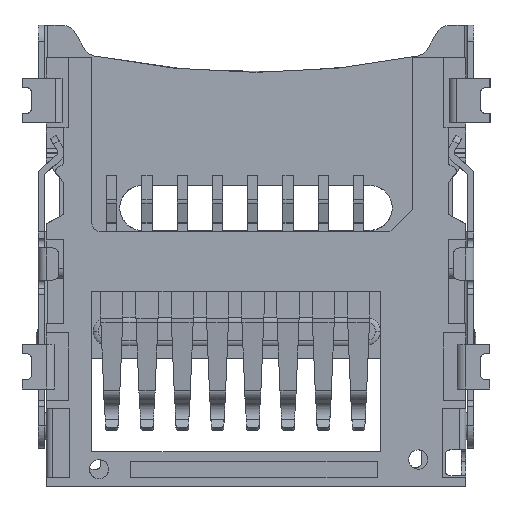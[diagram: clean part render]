
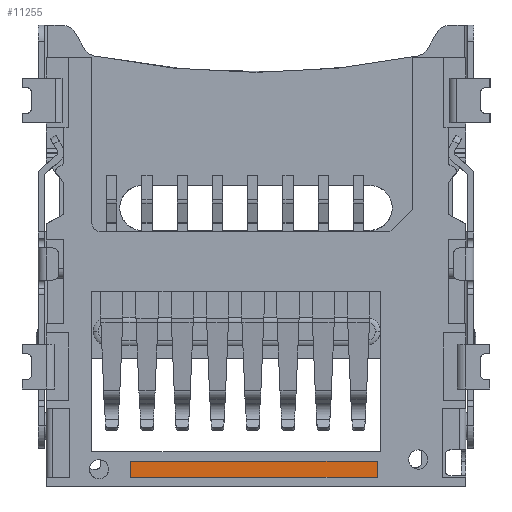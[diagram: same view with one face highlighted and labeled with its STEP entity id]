
A CAD part, front view. The second image highlights one B-rep face of the part: STEP entity #11255.
In plain terms, the highlighted planar face has unit normal (0, -1, 0).
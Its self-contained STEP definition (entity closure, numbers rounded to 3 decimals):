
#11169=CARTESIAN_POINT('Vertex',(46.33,0.2,-12.6)) ;
#11172=CARTESIAN_POINT('Line Origine',(46.33,0.2,-12.85)) ;
#11176=CARTESIAN_POINT('Vertex',(46.33,0.2,-13.1)) ;
#11196=CARTESIAN_POINT('Line Origine',(42.48,0.2,-13.1)) ;
#11200=CARTESIAN_POINT('Vertex',(38.63,0.2,-13.1)) ;
#11220=CARTESIAN_POINT('Line Origine',(38.63,0.2,-12.85)) ;
#11224=CARTESIAN_POINT('Vertex',(38.63,0.2,-12.6)) ;
#11239=CARTESIAN_POINT('Axis2P3D Location',(42.48,0.2,-12.85)) ;
#11244=CARTESIAN_POINT('Line Origine',(42.48,0.2,-12.6)) ;
#11173=DIRECTION('Vector Direction',(0.,0.,1.)) ;
#11197=DIRECTION('Vector Direction',(1.,0.,0.)) ;
#11221=DIRECTION('Vector Direction',(0.,0.,-1.)) ;
#11240=DIRECTION('Axis2P3D Direction',(0.,1.,0.)) ;
#11241=DIRECTION('Axis2P3D XDirection',(-1.,0.,0.)) ;
#11245=DIRECTION('Vector Direction',(-1.,0.,0.)) ;
#11242=AXIS2_PLACEMENT_3D('Plane Axis2P3D',#11239,#11240,#11241) ;
#11250=ORIENTED_EDGE('',*,*,#11178,.T.) ;
#11251=ORIENTED_EDGE('',*,*,#11248,.T.) ;
#11252=ORIENTED_EDGE('',*,*,#11226,.T.) ;
#11253=ORIENTED_EDGE('',*,*,#11202,.T.) ;
#11174=VECTOR('Line Direction',#11173,1.) ;
#11198=VECTOR('Line Direction',#11197,1.) ;
#11222=VECTOR('Line Direction',#11221,1.) ;
#11246=VECTOR('Line Direction',#11245,1.) ;
#11255=ADVANCED_FACE('',(#11254),#11243,.F.) ;
#11178=EDGE_CURVE('',#11177,#11170,#11175,.T.) ;
#11202=EDGE_CURVE('',#11201,#11177,#11199,.T.) ;
#11226=EDGE_CURVE('',#11225,#11201,#11223,.T.) ;
#11248=EDGE_CURVE('',#11170,#11225,#11247,.T.) ;
#11249=EDGE_LOOP('',(#11250,#11251,#11252,#11253)) ;
#11254=FACE_OUTER_BOUND('',#11249,.T.) ;
#11175=LINE('Line',#11172,#11174) ;
#11199=LINE('Line',#11196,#11198) ;
#11223=LINE('Line',#11220,#11222) ;
#11247=LINE('Line',#11244,#11246) ;
#11243=PLANE('Plane',#11242) ;
#11170=VERTEX_POINT('',#11169) ;
#11177=VERTEX_POINT('',#11176) ;
#11201=VERTEX_POINT('',#11200) ;
#11225=VERTEX_POINT('',#11224) ;
